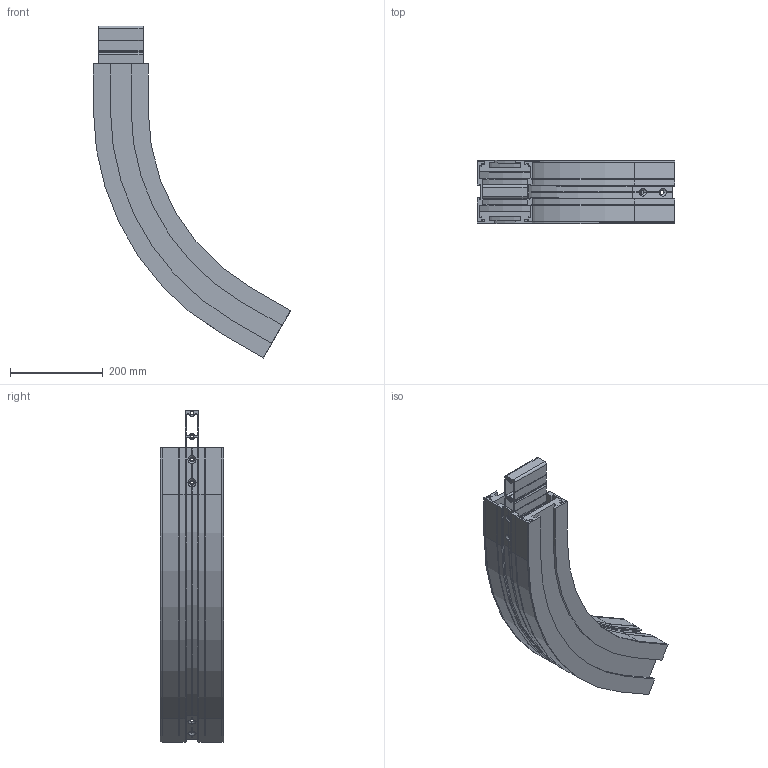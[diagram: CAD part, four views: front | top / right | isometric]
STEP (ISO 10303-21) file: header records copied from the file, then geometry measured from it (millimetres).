
FILE_DESCRIPTION (( 'STEP AP203' ), '1' );
FILE_NAME ('R3C500-60.STEP', '2009-01-13T08:23:19', ( 'faber' ), ( '' ), 'SwSTEP 2.0', 'SolidWorks 2008', '' );
FILE_SCHEMA (( 'CONFIG_CONTROL_DESIGN' ));
Length unit declared in the file: millimetre
Products named in the file (1): R3C500-60
Bounding box: 425.1 x 136 x 715.86 mm (x, y, z)
Surface area: 897230.2 mm2 (no closed solid volume)
Topology: 0 solids, 9 shells, 403 faces, 1523 edges, 1066 vertices
Faces by surface type: plane 191, cylinder 170, cone 24, torus 18
Entity records: 16062 total; most frequent: CARTESIAN_POINT 3089, DIRECTION 2799, ORIENTED_EDGE 2422, EDGE_CURVE 1523, VERTEX_POINT 1066, VECTOR 991, LINE 991, AXIS2_PLACEMENT_3D 904
